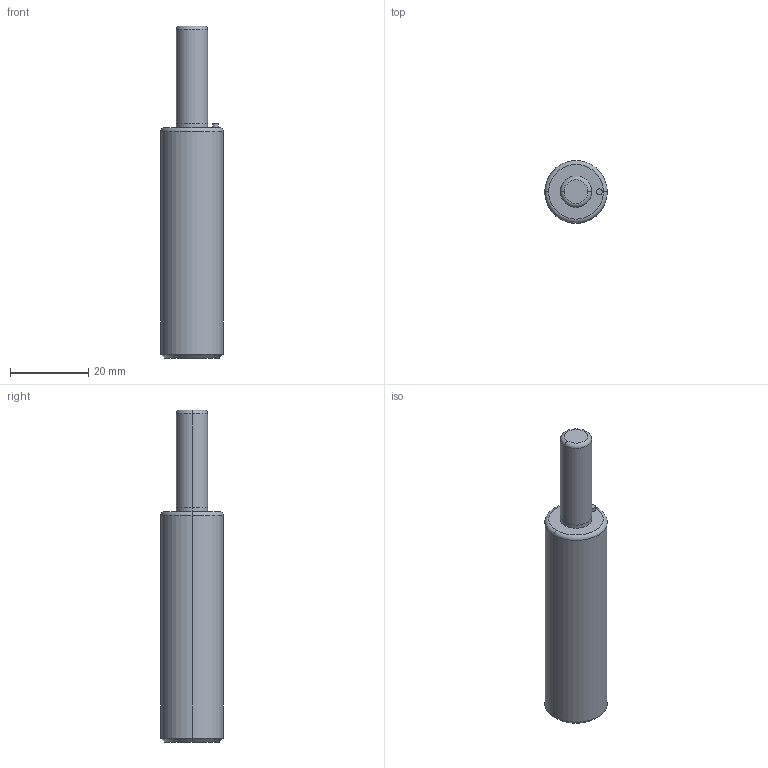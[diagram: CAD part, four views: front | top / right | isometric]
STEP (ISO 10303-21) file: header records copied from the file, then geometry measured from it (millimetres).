
FILE_DESCRIPTION(/* description */ (''),/* implementation_level */ '2;1');
FILE_NAME(/* name */ '3d_mgsc16-25_04567_r00.stp',/* time_stamp */ '2011-01-10T14:13:35+09:00',/* author */ ('MISUMI'),/* organization */ (''),/* preprocessor_version */ 'ST-DEVELOPER v11',/* originating_system */ 'UGS - NX 5.0',/* authorisation */ '');
FILE_SCHEMA (('CONFIG_CONTROL_DESIGN'));
Length unit declared in the file: millimetre
Products named in the file (1): 3d_mgsc16-25_04567_r00
Bounding box: 16 x 16 x 85 mm (x, y, z)
Volume: 12925.9 mm3; surface area: 4122.1 mm2
Topology: 1 solids, 1 shells, 24 faces, 48 edges, 27 vertices
Faces by surface type: cylinder 12, plane 4, torus 4, cone 4
Entity records: 698 total; most frequent: DIRECTION 126, CARTESIAN_POINT 98, ORIENTED_EDGE 92, AXIS2_PLACEMENT_3D 55, EDGE_CURVE 46, CIRCLE 30, EDGE_LOOP 27, VERTEX_POINT 27
